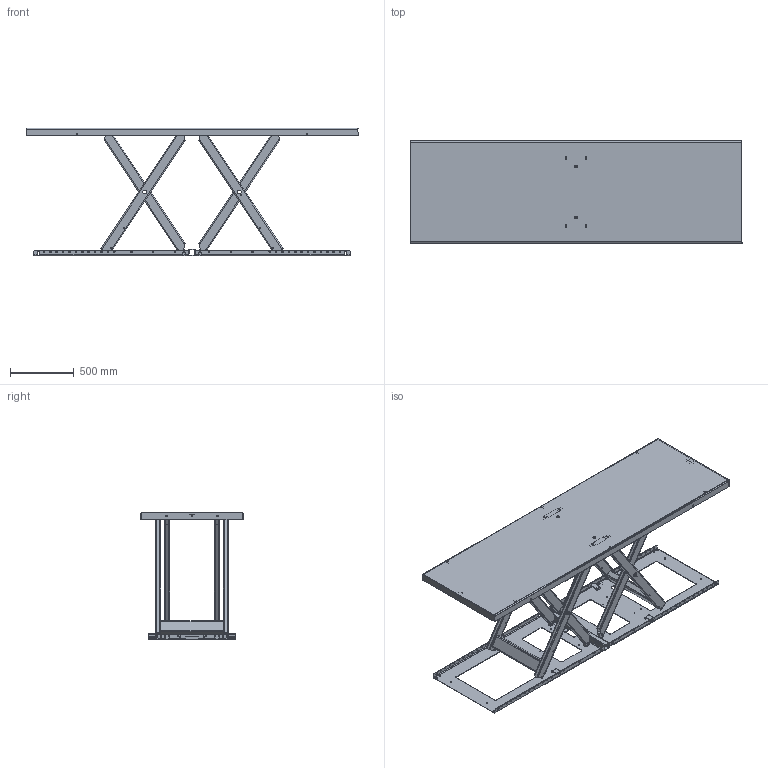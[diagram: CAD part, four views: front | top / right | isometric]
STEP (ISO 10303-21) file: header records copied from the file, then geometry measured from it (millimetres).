
FILE_DESCRIPTION(/* description */ ('TLH 2000 2600x800'),/* implementation_level */ '2;1');
FILE_NAME(/* name */ '\\EDMOFILE01\Users$\JOHSO\Desktop\32930_Raised.stp',/* time_stamp */ '2019-03-01T08:09:03+01:00',/* author */ ('johso'),/* organization */ (''),/* preprocessor_version */ 'ST-DEVELOPER v16.5',/* originating_system */ 'Autodesk Inventor 2017',/* authorisation */ '');
FILE_SCHEMA (('AUTOMOTIVE_DESIGN { 1 0 10303 214 3 1 1 }'));
Length unit declared in the file: millimetre
Products named in the file (22): 32930.tmp; 32931; 611364; 611365; 44681; 612229; 83751 - 685; 34977; 34977_1; 32903; 82154 - 490; 34827; 34815; 34816; 32086; 36411; 44771; 85955; 45258; 83567 - 114; 83212; 42394
Assembly tree (41 placements, depth 4):
  32930.tmp
    32931
      611364  x2
        611365
        45258
        44681
      612229
        83751 - 685
    34977
      32903
        82154 - 490
        34827  x2
      34815
        34816  x2
    34977_1
      32903
        82154 - 490
        34827  x2
      34815
        34816  x2
    32086
      36411
      44771  x2
      85955  x2
      45258  x4
      83567 - 114  x2
      83212  x6
      42394  x2
Bounding box: 2600 x 800 x 1000 mm (x, y, z)
Volume: 28074318.2 mm3; surface area: 12018584.9 mm2
Topology: 40 solids, 40 shells, 1876 faces, 5212 edges, 3412 vertices
Faces by surface type: plane 952, cylinder 842, cone 46, bspline 36
Full cylindrical faces by diameter (mm): 5.55 x4, 6.8 x16, 7.4 x12, 8 x6, 10 x8, 10.2 x32, 10.5 x16, 11.63 x6, 12.5 x6, 13 x24, 13.835 x2, 18.5 x2, 19 x2, 20.1 x8, 30.2 x8, 42.8 x8
Entity records: 28718 total; most frequent: CARTESIAN_POINT 5526, DIRECTION 4743, ORIENTED_EDGE 4612, EDGE_CURVE 2306, AXIS2_PLACEMENT_3D 1618, VERTEX_POINT 1553, LINE 1507, VECTOR 1507
